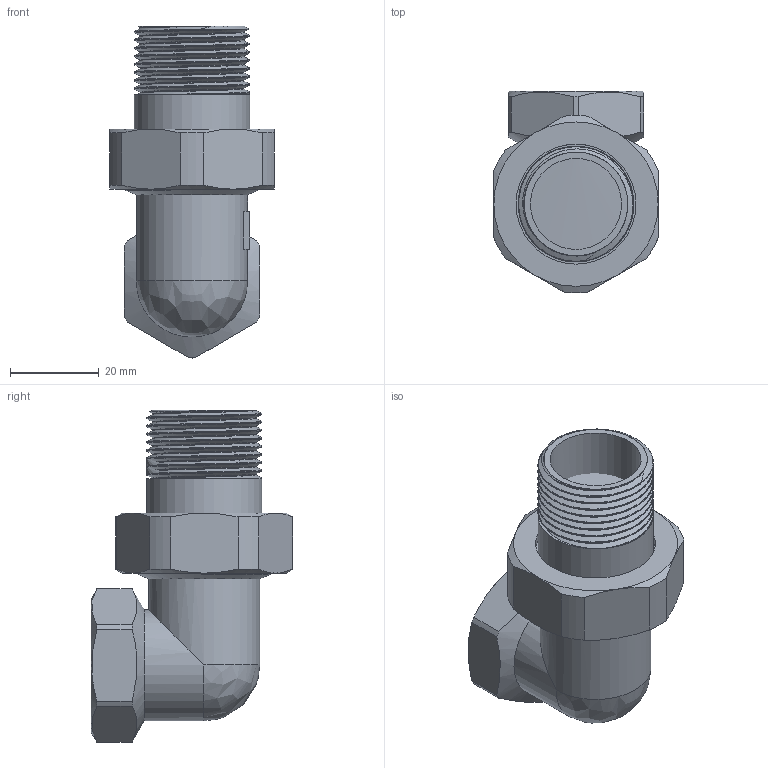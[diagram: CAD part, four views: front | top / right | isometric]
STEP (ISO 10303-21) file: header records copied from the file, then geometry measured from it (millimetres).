
FILE_DESCRIPTION(/* description */ (''),/* implementation_level */ '2;1');
FILE_NAME(/* name */ 'C:\Users\Doom\Desktop\Фадотех\Резьба\SC12 18.03.2020\SC12 18.03.2020.stp',/* time_stamp */ '2022-01-16T19:22:44+02:00',/* author */ ('Doom'),/* organization */ (''),/* preprocessor_version */ 'ST-DEVELOPER v18',/* originating_system */ 'Autodesk Inventor 2020',/* authorisation */ '');
FILE_SCHEMA (('AUTOMOTIVE_DESIGN { 1 0 10303 214 3 1 1 }'));
Length unit declared in the file: millimetre
Products named in the file (4): SC12 18.03.2020; 2060186D; 2060187D; SC12-1
Assembly tree (3 placements, depth 2):
  SC12 18.03.2020
    2060186D
    2060187D
    SC12-1
Bounding box: 37 x 45.48 x 74.75 mm (x, y, z)
Volume: 23171.1 mm3; surface area: 24580.6 mm2
Topology: 4 solids, 4 shells, 162 faces, 452 edges, 304 vertices
Faces by surface type: cylinder 54, plane 51, bspline 31, cone 26
Full cylindrical faces by diameter (mm): 20.5 x1, 21.5 x2, 23.31 x2, 23.75 x4, 24 x1, 25 x3, 26 x10, 26.44 x1, 27 x1, 29.826 x4, 30 x1, 33.24 x2
Entity records: 17509 total; most frequent: CARTESIAN_POINT 13542, ORIENTED_EDGE 896, DIRECTION 679, EDGE_CURVE 448, VERTEX_POINT 304, AXIS2_PLACEMENT_3D 268, EDGE_LOOP 180, FACE_OUTER_BOUND 162
